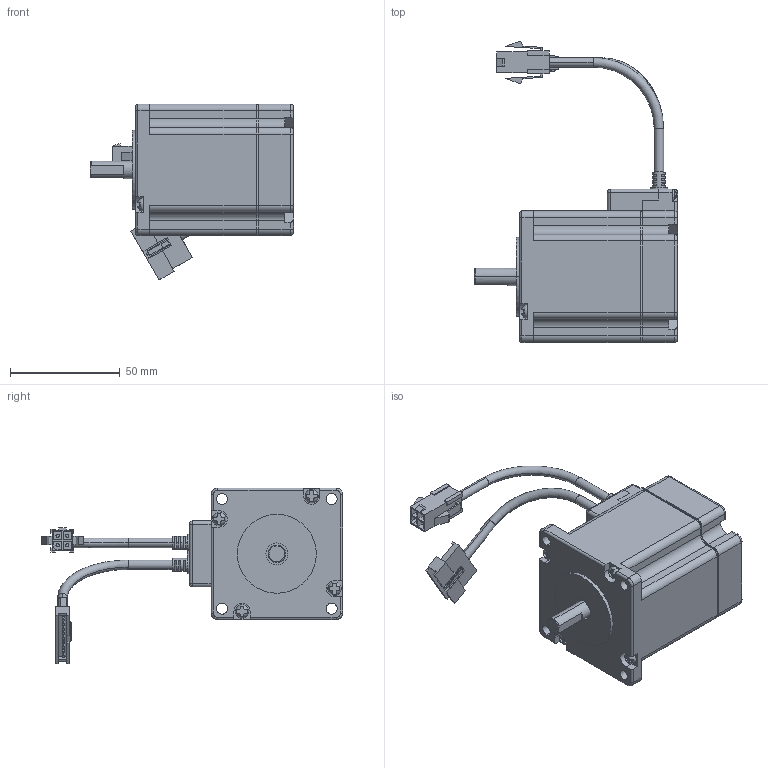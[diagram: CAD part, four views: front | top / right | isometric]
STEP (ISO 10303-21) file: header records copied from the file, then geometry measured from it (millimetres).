
FILE_DESCRIPTION (( 'STEP AP203' ), '1' );
FILE_NAME ('P1A-MO-060-02-R00.STEP', '2015-08-11T02:33:53', ( '' ), ( '' ), 'SwSTEP 2.0', 'SolidWorks 2013', '' );
FILE_SCHEMA (( 'CONFIG_CONTROL_DESIGN' ));
Length unit declared in the file: millimetre
Products named in the file (11): M41-EC-060-01-R00_ル遽; M41-EC-060-03-R00_ル遽; M41-EC-060-02-R00; 42陝 賅攪瞪錳摹_ル遽; 42阿 浚内歹 纳捞喉急_钎霖; M41-MO-060-02-R00; round cross head screw_ks_KS 1023 RC - M3 x 12-N; PLATE; P1A-MO-060-02-R00; 20陝 PCB_ル遽; 葆斜啻す 縛囀渦_ル遽
Assembly tree (15 placements, depth 3):
  P1A-MO-060-02-R00
    M41-MO-060-02-R00
    PLATE
    20陝 PCB_ル遽
    葆斜啻す 縛囀渦_ル遽
    M41-EC-060-01-R00_ル遽
    M41-EC-060-02-R00
      M41-EC-060-03-R00_ル遽
    42陝 賅攪瞪錳摹_ル遽
    42阿 浚内歹 纳捞喉急_钎霖
    round cross head screw_ks_KS 1023 RC - M3 x 12-N  x6
Bounding box: 92.6 x 137.41 x 80.22 mm (x, y, z)
Volume: 207922.1 mm3; surface area: 54403.9 mm2
Topology: 14 solids, 14 shells, 1061 faces, 2752 edges, 1775 vertices
Faces by surface type: plane 604, cylinder 312, cone 73, bspline 64, sphere 4, torus 4
Entity records: 30311 total; most frequent: CARTESIAN_POINT 6187, DIRECTION 4835, ORIENTED_EDGE 4740, EDGE_CURVE 2370, AXIS2_PLACEMENT_3D 1667, VERTEX_POINT 1546, LINE 1501, VECTOR 1501
